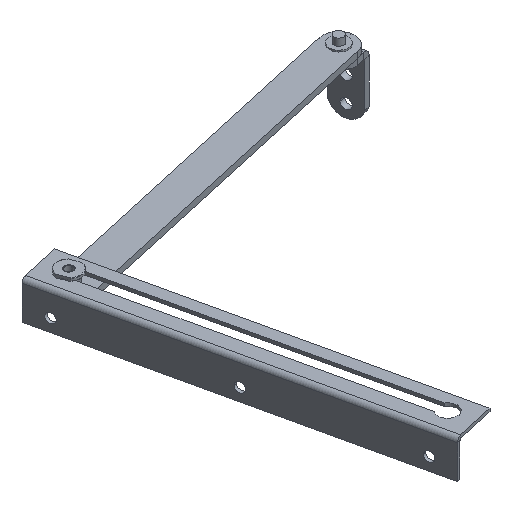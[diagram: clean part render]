
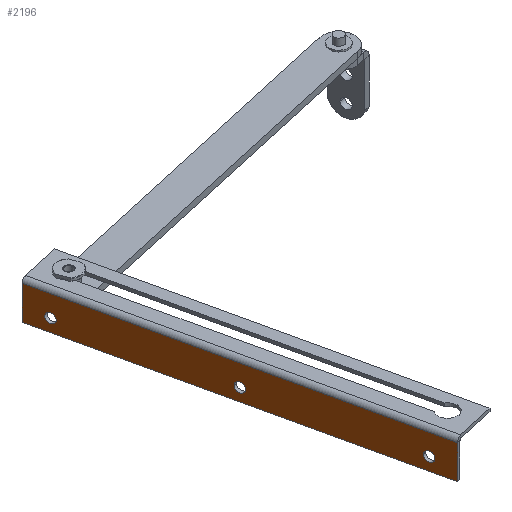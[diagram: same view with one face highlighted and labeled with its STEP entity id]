
A CAD part, isometric view. The second image highlights one B-rep face of the part: STEP entity #2196.
In plain terms, the highlighted planar face has unit normal (-0.976, -0.219, 0) as drawn and (0, -1, 0) by its records, which use the part's own axes.
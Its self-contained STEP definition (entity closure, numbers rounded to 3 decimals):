
#15 = DIRECTION ( 'NONE',  ( 0., 1., 0. ) ) ;
#16 = CARTESIAN_POINT ( 'NONE',  ( 16., 0., 115. ) ) ;
#34 = DIRECTION ( 'NONE',  ( 0., 0., 1. ) ) ;
#40 = AXIS2_PLACEMENT_3D ( 'NONE', #16, #15, #34 ) ;
#43 = CIRCLE ( 'NONE', #40, 3. ) ;
#102 = CARTESIAN_POINT ( 'NONE',  ( 16., 0., 18. ) ) ;
#116 = CARTESIAN_POINT ( 'NONE',  ( 16., 0., 15. ) ) ;
#125 = DIRECTION ( 'NONE',  ( 0., 1., 0. ) ) ;
#138 = AXIS2_PLACEMENT_3D ( 'NONE', #116, #125, #140 ) ;
#140 = DIRECTION ( 'NONE',  ( 0., 0., 1. ) ) ;
#146 = CIRCLE ( 'NONE', #138, 3. ) ;
#163 = CARTESIAN_POINT ( 'NONE',  ( 16., 0., 12. ) ) ;
#498 = CARTESIAN_POINT ( 'NONE',  ( 2.737, 0., 230. ) ) ;
#2048 = EDGE_LOOP ( 'NONE', ( #2187, #2189 ) ) ;
#2085 = VERTEX_POINT ( 'NONE', #2839 ) ;
#2117 = EDGE_CURVE ( 'NONE', #2127, #2123, #2804, .T. ) ;
#2123 = VERTEX_POINT ( 'NONE', #2811 ) ;
#2127 = VERTEX_POINT ( 'NONE', #2871 ) ;
#2164 = EDGE_LOOP ( 'NONE', ( #2192, #2266 ) ) ;
#2167 = EDGE_CURVE ( 'NONE', #3225, #2123, #2846, .T. ) ;
#2187 = ORIENTED_EDGE ( 'NONE', *, *, #2188, .T. ) ;
#2188 = EDGE_CURVE ( 'NONE', #2085, #2519, #3099, .T. ) ;
#2189 = ORIENTED_EDGE ( 'NONE', *, *, #2405, .T. ) ;
#2192 = ORIENTED_EDGE ( 'NONE', *, *, #2193, .T. ) ;
#2193 = EDGE_CURVE ( 'NONE', #2608, #2582, #3143, .T. ) ;
#2196 = ADVANCED_FACE ( 'NONE', ( #3098, #3130, #3097, #3152 ), #3145, .T. ) ;
#2203 = EDGE_CURVE ( 'NONE', #2207, #2127, #3110, .T. ) ;
#2207 = VERTEX_POINT ( 'NONE', #3139 ) ;
#2224 = ORIENTED_EDGE ( 'NONE', *, *, #2740, .T. ) ;
#2225 = ORIENTED_EDGE ( 'NONE', *, *, #2117, .F. ) ;
#2226 = EDGE_LOOP ( 'NONE', ( #2225, #2273, #2316, #2288 ) ) ;
#2253 = EDGE_LOOP ( 'NONE', ( #2289, #2224 ) ) ;
#2255 = EDGE_CURVE ( 'NONE', #2207, #3225, #3448, .T. ) ;
#2266 = ORIENTED_EDGE ( 'NONE', *, *, #2710, .T. ) ;
#2273 = ORIENTED_EDGE ( 'NONE', *, *, #2203, .F. ) ;
#2288 = ORIENTED_EDGE ( 'NONE', *, *, #2167, .T. ) ;
#2289 = ORIENTED_EDGE ( 'NONE', *, *, #2292, .T. ) ;
#2292 = EDGE_CURVE ( 'NONE', #2749, #2932, #3459, .T. ) ;
#2316 = ORIENTED_EDGE ( 'NONE', *, *, #2255, .T. ) ;
#2405 = EDGE_CURVE ( 'NONE', #2519, #2085, #4051, .T. ) ;
#2519 = VERTEX_POINT ( 'NONE', #4283 ) ;
#2582 = VERTEX_POINT ( 'NONE', #4403 ) ;
#2608 = VERTEX_POINT ( 'NONE', #4420 ) ;
#2710 = EDGE_CURVE ( 'NONE', #2582, #2608, #43, .T. ) ;
#2740 = EDGE_CURVE ( 'NONE', #2932, #2749, #146, .T. ) ;
#2749 = VERTEX_POINT ( 'NONE', #102 ) ;
#2804 = LINE ( 'NONE', #2914, #2923 ) ;
#2811 = CARTESIAN_POINT ( 'NONE',  ( 2.737, 0., 0. ) ) ;
#2839 = CARTESIAN_POINT ( 'NONE',  ( 16., 0., 218. ) ) ;
#2845 = CARTESIAN_POINT ( 'NONE',  ( 2.737, 0., 230. ) ) ;
#2846 = LINE ( 'NONE', #2845, #2939 ) ;
#2871 = CARTESIAN_POINT ( 'NONE',  ( 24., 0., 0. ) ) ;
#2914 = CARTESIAN_POINT ( 'NONE',  ( 0., 0., 0. ) ) ;
#2922 = DIRECTION ( 'NONE',  ( -1., 0., 0. ) ) ;
#2923 = VECTOR ( 'NONE', #2922, 1000. ) ;
#2932 = VERTEX_POINT ( 'NONE', #163 ) ;
#2938 = DIRECTION ( 'NONE',  ( 0., 0., -1. ) ) ;
#2939 = VECTOR ( 'NONE', #2938, 1000. ) ;
#3082 = DIRECTION ( 'NONE',  ( 0., 1., 0. ) ) ;
#3084 = DIRECTION ( 'NONE',  ( 0., 1., 0. ) ) ;
#3085 = CARTESIAN_POINT ( 'NONE',  ( 16., 0., 215. ) ) ;
#3092 = AXIS2_PLACEMENT_3D ( 'NONE', #3148, #3084, #3151 ) ;
#3097 = FACE_BOUND ( 'NONE', #2253, .T. ) ;
#3098 = FACE_BOUND ( 'NONE', #2048, .T. ) ;
#3099 = CIRCLE ( 'NONE', #3121, 3. ) ;
#3108 = VECTOR ( 'NONE', #3141, 1000. ) ;
#3109 = CARTESIAN_POINT ( 'NONE',  ( 24., 0., 230. ) ) ;
#3110 = LINE ( 'NONE', #3109, #3108 ) ;
#3119 = DIRECTION ( 'NONE',  ( 0., 0., -1. ) ) ;
#3120 = DIRECTION ( 'NONE',  ( 0., 0., 1. ) ) ;
#3121 = AXIS2_PLACEMENT_3D ( 'NONE', #3085, #3082, #3120 ) ;
#3130 = FACE_BOUND ( 'NONE', #2164, .T. ) ;
#3135 = DIRECTION ( 'NONE',  ( 0., -1., 0. ) ) ;
#3136 = CARTESIAN_POINT ( 'NONE',  ( 0., 0., 230. ) ) ;
#3139 = CARTESIAN_POINT ( 'NONE',  ( 24., 0., 230. ) ) ;
#3141 = DIRECTION ( 'NONE',  ( 0., 0., -1. ) ) ;
#3143 = CIRCLE ( 'NONE', #3092, 3. ) ;
#3144 = AXIS2_PLACEMENT_3D ( 'NONE', #3136, #3135, #3119 ) ;
#3145 = PLANE ( 'NONE',  #3144 ) ;
#3148 = CARTESIAN_POINT ( 'NONE',  ( 16., 0., 115. ) ) ;
#3151 = DIRECTION ( 'NONE',  ( 0., 0., 1. ) ) ;
#3152 = FACE_OUTER_BOUND ( 'NONE', #2226, .T. ) ;
#3225 = VERTEX_POINT ( 'NONE', #498 ) ;
#3354 = VECTOR ( 'NONE', #3393, 1000. ) ;
#3366 = CARTESIAN_POINT ( 'NONE',  ( 0., 0., 230. ) ) ;
#3393 = DIRECTION ( 'NONE',  ( -1., 0., 0. ) ) ;
#3434 = CARTESIAN_POINT ( 'NONE',  ( 16., 0., 15. ) ) ;
#3438 = AXIS2_PLACEMENT_3D ( 'NONE', #3434, #3444, #3443 ) ;
#3443 = DIRECTION ( 'NONE',  ( 0., 0., 1. ) ) ;
#3444 = DIRECTION ( 'NONE',  ( 0., 1., 0. ) ) ;
#3448 = LINE ( 'NONE', #3366, #3354 ) ;
#3459 = CIRCLE ( 'NONE', #3438, 3. ) ;
#4047 = DIRECTION ( 'NONE',  ( 0., 1., 0. ) ) ;
#4048 = CARTESIAN_POINT ( 'NONE',  ( 16., 0., 215. ) ) ;
#4050 = AXIS2_PLACEMENT_3D ( 'NONE', #4048, #4047, #4060 ) ;
#4051 = CIRCLE ( 'NONE', #4050, 3. ) ;
#4060 = DIRECTION ( 'NONE',  ( 0., 0., 1. ) ) ;
#4283 = CARTESIAN_POINT ( 'NONE',  ( 16., 0., 212. ) ) ;
#4403 = CARTESIAN_POINT ( 'NONE',  ( 16., 0., 112. ) ) ;
#4420 = CARTESIAN_POINT ( 'NONE',  ( 16., 0., 118. ) ) ;
